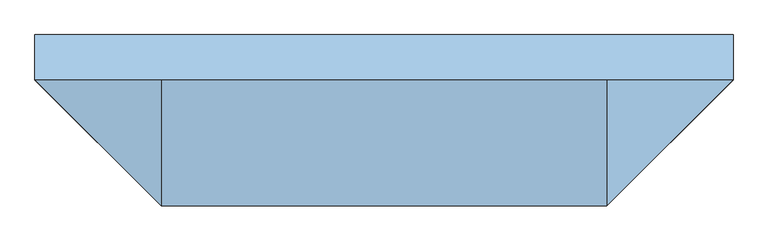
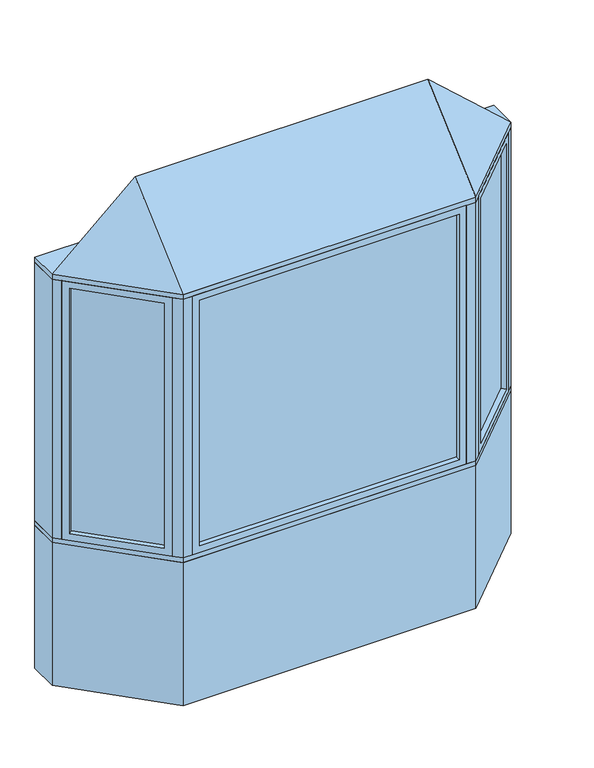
"""IFC4 building model written with IfcOpenShell, lengths in millimetres: window geometry, Pollard_Windows_Tudor Casement Bows and Bays : AML-BAY 45 AFR0614-12-500."""

from ifc_helpers import new_model, si_unit, frame, origin, origin_with_axes, place, context, project, spatial, polyline, outline, extrude, faceted_brep, source, transform, mapped, element, save


def window_95a81073(model_context):
    return source(origin(), model_context, "Body", "SolidModel", [
        extrude(outline(polyline([(1110.5964271, -104.763169), (784.824814, -430.5347822), (781.2327115, -426.9426797), (1107.0043247, -101.1710666), (1110.5964271, -104.763169)])), frame((0.0, 0.0, 823.1628), z_axis=(0.0, 0.0, 1.0), x_axis=(1.0, 0.0, 0.0)), (0.0, 0.0, 1.0), 1353.6704),
        faceted_brep([(1101.616171, -113.7434252, 835.8628), (1119.5766833, -131.7039374, 835.8628), (1119.5766833, -131.7039374, 2164.1332), (1101.616171, -113.7434252, 2164.1332), (1107.0043247, -101.1710666, 823.1628), (1110.5964271, -104.763169, 823.1628), (1110.5964271, -104.763169, 2176.8332), (1107.0043247, -101.1710666, 2176.8332), (1080.0635563, -92.1908105, 835.8628), (1098.0240686, -110.1513227, 835.8628), (1098.0240686, -110.1513227, 2164.1332), (1080.0635563, -92.1908105, 2164.1332), (1144.9369265, -106.3436941, 799.998), (1105.4237996, -66.8305672, 799.998), (1105.4237996, -66.8305672, 2199.998), (1144.9369265, -106.3436941, 2199.998), (811.7655823, -439.5150383, 2164.1332), (793.8050701, -421.5545261, 2164.1332), (784.824814, -430.5347822, 2176.8332), (781.2327115, -426.9426797, 2176.8332), (790.2129677, -417.9624236, 2164.1332), (772.2524554, -400.0019114, 2164.1332), (746.8922121, -425.3621547, 2199.998), (786.4053391, -464.8752816, 2199.998), (811.7655823, -439.5150383, 835.8628), (793.8050701, -421.5545261, 835.8628), (784.824814, -430.5347822, 823.1628), (781.2327115, -426.9426797, 823.1628), (790.2129677, -417.9624236, 835.8628), (772.2524554, -400.0019114, 835.8628), (746.8922121, -425.3621547, 799.998), (786.4053391, -464.8752816, 799.998)], [[[0, 1, 2, 3]], [[4, 5, 6, 7]], [[8, 9, 10, 11]], [[12, 13, 14, 15]], [[3, 2, 16, 17]], [[7, 6, 18, 19]], [[11, 10, 20, 21]], [[15, 14, 22, 23]], [[17, 16, 24, 25]], [[19, 18, 26, 27]], [[21, 20, 28, 29]], [[23, 22, 30, 31]], [[25, 24, 1, 0]], [[5, 26, 18, 6], [3, 17, 25, 0]], [[27, 26, 5, 4]], [[7, 19, 27, 4], [9, 28, 20, 10]], [[29, 28, 9, 8]], [[13, 30, 22, 14], [11, 21, 29, 8]], [[31, 30, 13, 12]], [[15, 23, 31, 12], [1, 24, 16, 2]]]),
        extrude(outline(polyline([(-784.824814, -430.5347822), (-1110.5964271, -104.763169), (-1107.0043247, -101.1710666), (-781.2327115, -426.9426797), (-784.824814, -430.5347822)])), frame((0.0, 0.0, 823.1628), z_axis=(0.0, 0.0, 1.0), x_axis=(1.0, 0.0, 0.0)), (0.0, 0.0, 1.0), 1353.6704),
        faceted_brep([(-790.2129677, -417.9624236, 2164.1332), (-772.2524554, -400.0019114, 2164.1332), (-772.2524554, -400.0019114, 835.8628), (-790.2129677, -417.9624236, 835.8628), (-784.824814, -430.5347822, 2176.8332), (-781.2327115, -426.9426797, 2176.8332), (-781.2327115, -426.9426797, 823.1628), (-784.824814, -430.5347822, 823.1628), (-811.7655823, -439.5150383, 2164.1332), (-793.8050701, -421.5545261, 2164.1332), (-793.8050701, -421.5545261, 835.8628), (-811.7655823, -439.5150383, 835.8628), (-746.8922121, -425.3621547, 2199.998), (-786.4053391, -464.8752816, 2199.998), (-786.4053391, -464.8752816, 799.998), (-746.8922121, -425.3621547, 799.998), (-1080.0635563, -92.1908105, 835.8628), (-1098.0240686, -110.1513227, 835.8628), (-1107.0043247, -101.1710666, 823.1628), (-1110.5964271, -104.763169, 823.1628), (-1101.616171, -113.7434252, 835.8628), (-1119.5766833, -131.7039374, 835.8628), (-1144.9369265, -106.3436941, 799.998), (-1105.4237996, -66.8305672, 799.998), (-1080.0635563, -92.1908105, 2164.1332), (-1098.0240686, -110.1513227, 2164.1332), (-1107.0043247, -101.1710666, 2176.8332), (-1110.5964271, -104.763169, 2176.8332), (-1101.616171, -113.7434252, 2164.1332), (-1119.5766833, -131.7039374, 2164.1332), (-1144.9369265, -106.3436941, 2199.998), (-1105.4237996, -66.8305672, 2199.998)], [[[0, 1, 2, 3]], [[4, 5, 6, 7]], [[8, 9, 10, 11]], [[12, 13, 14, 15]], [[3, 2, 16, 17]], [[7, 6, 18, 19]], [[11, 10, 20, 21]], [[15, 14, 22, 23]], [[17, 16, 24, 25]], [[19, 18, 26, 27]], [[21, 20, 28, 29]], [[23, 22, 30, 31]], [[15, 23, 31, 12], [1, 24, 16, 2]], [[25, 24, 1, 0]], [[5, 26, 18, 6], [3, 17, 25, 0]], [[27, 26, 5, 4]], [[7, 19, 27, 4], [9, 28, 20, 10]], [[29, 28, 9, 8]], [[13, 30, 22, 14], [11, 21, 29, 8]], [[31, 30, 13, 12]]]),
        extrude(outline(polyline([(677.8852, -474.8306207), (-677.8852, -474.8306207), (-677.8852, -469.7506207), (677.8852, -469.7506207), (677.8852, -474.8306207)])), frame((0.0, 0.0, 823.1628), z_axis=(0.0, 0.0, 1.0), x_axis=(1.0, 0.0, 0.0)), (0.0, 0.0, 1.0), 1353.6704),
        faceted_brep([(665.1852, -474.8306207, 835.8628), (665.1852, -500.2306207, 835.8628), (665.1852, -500.2306207, 2164.1332), (665.1852, -474.8306207, 2164.1332), (677.8852, -469.7506207, 823.1628), (677.8852, -474.8306207, 823.1628), (677.8852, -474.8306207, 2176.8332), (677.8852, -469.7506207, 2176.8332), (665.1852, -444.3506207, 835.8628), (665.1852, -469.7506207, 835.8628), (665.1852, -469.7506207, 2164.1332), (665.1852, -444.3506207, 2164.1332), (701.05, -500.2306207, 799.998), (701.05, -444.3506207, 799.998), (701.05, -444.3506207, 2199.998), (701.05, -500.2306207, 2199.998), (-665.1852, -500.2306207, 2164.1332), (-665.1852, -474.8306207, 2164.1332), (-677.8852, -474.8306207, 2176.8332), (-677.8852, -469.7506207, 2176.8332), (-665.1852, -469.7506207, 2164.1332), (-665.1852, -444.3506207, 2164.1332), (-701.05, -444.3506207, 2199.998), (-701.05, -500.2306207, 2199.998), (-665.1852, -500.2306207, 835.8628), (-665.1852, -474.8306207, 835.8628), (-677.8852, -474.8306207, 823.1628), (-677.8852, -469.7506207, 823.1628), (-665.1852, -469.7506207, 835.8628), (-665.1852, -444.3506207, 835.8628), (-701.05, -444.3506207, 799.998), (-701.05, -500.2306207, 799.998)], [[[0, 1, 2, 3]], [[4, 5, 6, 7]], [[8, 9, 10, 11]], [[12, 13, 14, 15]], [[3, 2, 16, 17]], [[7, 6, 18, 19]], [[11, 10, 20, 21]], [[15, 14, 22, 23]], [[17, 16, 24, 25]], [[19, 18, 26, 27]], [[21, 20, 28, 29]], [[23, 22, 30, 31]], [[15, 23, 31, 12], [1, 24, 16, 2]], [[25, 24, 1, 0]], [[5, 26, 18, 6], [3, 17, 25, 0]], [[27, 26, 5, 4]], [[7, 19, 27, 4], [9, 28, 20, 10]], [[29, 28, 9, 8]], [[13, 30, 22, 14], [11, 21, 29, 8]], [[31, 30, 13, 12]]]),
        faceted_brep([(1176.5, -74.7806207, 2225.398), (751.05, -500.2306207, 2225.398), (-751.05, -500.2306207, 2225.398), (-1176.5, -74.7806207, 2225.398), (-751.05, -74.7806207, 2606.398), (751.05, -74.7806207, 2606.398)], [[[0, 1, 2, 3]], [[3, 2, 4]], [[2, 1, 5, 4]], [[1, 0, 5]], [[0, 3, 4, 5]]]),
        extrude(outline(polyline([(-1176.5, 77.6193793), (1176.5, 77.6193793), (1176.5, -74.7806207), (751.05, -500.2306207), (-751.05, -500.2306207), (-1176.5, -74.7806207), (-1176.5, 77.6193793)])), frame((0.0, 0.0, 2199.998), z_axis=(0.0, 0.0, 1.0), x_axis=(1.0, 0.0, 0.0)), (0.0, 0.0, 1.0), 25.4),
        extrude(outline(polyline([(-1176.5, -74.7806207), (-1176.5, 77.6193793), (-1113.3738531, 77.6193793), (-1113.3738531, -74.7806207), (-1144.9369265, -106.3436941), (-1176.5, -74.7806207)])), frame((0.0, 0.0, 799.998), z_axis=(0.0, 0.0, 1.0), x_axis=(1.0, 0.0, 0.0)), (0.0, 0.0, 1.0), 1400.0),
        extrude(outline(polyline([(1176.5, 77.6193793), (1176.5, -74.7806207), (1144.9369265, -106.3436941), (1113.3738531, -74.7806207), (1113.3738531, 77.6193793), (1176.5, 77.6193793)])), frame((0.0, 0.0, 799.998), z_axis=(0.0, 0.0, 1.0), x_axis=(1.0, 0.0, 0.0)), (0.0, 0.0, 1.0), 1400.0),
        extrude(outline(polyline([(751.05, -500.2306207), (701.05, -500.2306207), (701.05, -450.2306207), (730.3393219, -450.2306207), (751.05, -429.5199425), (786.4053391, -464.8752816), (751.05, -500.2306207)])), frame((0.0, 0.0, 799.998), z_axis=(0.0, 0.0, 1.0), x_axis=(1.0, 0.0, 0.0)), (0.0, 0.0, 1.0), 1400.0),
        extrude(outline(polyline([(-751.05, -500.2306207), (-786.4053391, -464.8752816), (-751.05, -429.5199425), (-730.3393219, -450.2306207), (-701.05, -450.2306207), (-701.05, -500.2306207), (-751.05, -500.2306207)])), frame((0.0, 0.0, 799.998), z_axis=(0.0, 0.0, 1.0), x_axis=(1.0, 0.0, 0.0)), (0.0, 0.0, 1.0), 1400.0),
        extrude(outline(polyline([(-751.05, -500.2306207), (-1176.5, -74.7806207), (-1176.5, 77.6193793), (-1113.3738531, 77.6193793), (-687.9238531, -347.8306207), (687.9238531, -347.8306207), (1113.3738531, 77.6193793), (1176.5, 77.6193793), (1176.5, -74.7806207), (751.05, -500.2306207), (-751.05, -500.2306207)])), frame((0.0, 0.0, 774.598), z_axis=(0.0, 0.0, 1.0), x_axis=(1.0, 0.0, 0.0)), (0.0, 0.0, 1.0), 25.4),
        extrude(outline(polyline([(-1176.5, -74.7806207), (-1176.5, 77.6193793), (-1113.3738531, 77.6193793), (-687.9238531, -347.8306207), (687.9238531, -347.8306207), (1113.3738531, 77.6193793), (1176.5, 77.6193793), (1176.5, -74.7806207), (751.05, -500.2306207), (-751.05, -500.2306207), (-1176.5, -74.7806207)])), origin_with_axes(), (0.0, 0.0, 1.0), 774.598),
    ])


if __name__ == "__main__":
    model = new_model("IFC4")
    model_context = context("Model", 3, world=origin())
    ifc_project = project(units=[si_unit("LENGTHUNIT", "METRE", prefix="MILLI")], contexts=[model_context])
    site = spatial("IfcSite", under=ifc_project)
    building = spatial("IfcBuilding", under=site)
    placement = place(None, origin())
    window_shape = window_95a81073(model_context)
    element("IfcWindow", 1, ObjectType="Pollard_Windows_Tudor Casement Bows and Bays : AML-BAY 45 AFR0614-12-500", at=placement, inside=building, context=model_context, shape_type="MappedRepresentation", body=[
        mapped(window_shape, transform((0.0, 0.0, 0.0), x_axis=(1.0, 0.0, 0.0), y_axis=(0.0, 1.0, 0.0), z_axis=(0.0, 0.0, 1.0))),
    ])
    save(model, "model.ifc")
